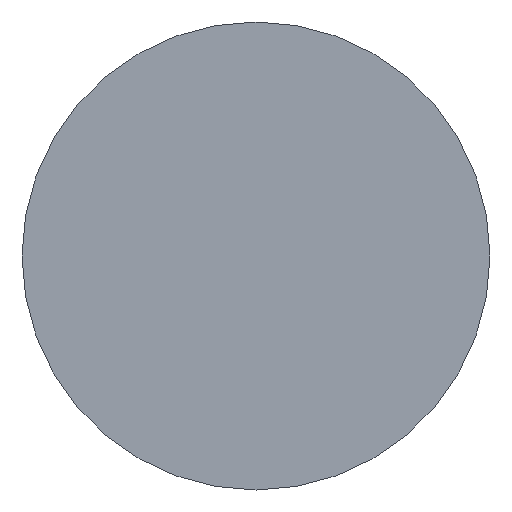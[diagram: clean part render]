
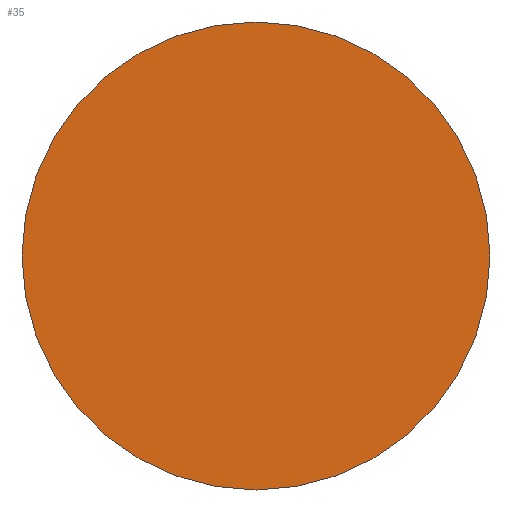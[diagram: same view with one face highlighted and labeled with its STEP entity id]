
A CAD part, front view. The second image highlights one B-rep face of the part: STEP entity #35.
In plain terms, the highlighted planar face has unit normal (0, -1, 0).
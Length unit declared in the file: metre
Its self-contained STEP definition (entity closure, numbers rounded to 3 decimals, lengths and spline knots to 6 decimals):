
#12=PLANE('',#60);
#16=ORIENTED_EDGE('',*,*,#18,.F.);
#18=EDGE_CURVE('',#20,#20,#22,.T.);
#20=VERTEX_POINT('',#77);
#22=CIRCLE('',#58,0.000709);
#26=EDGE_LOOP('',(#16));
#30=FACE_BOUND('',#26,.T.);
#35=ADVANCED_FACE('',(#30),#12,.F.);
#58=AXIS2_PLACEMENT_3D('',#76,#66,#67);
#60=AXIS2_PLACEMENT_3D('',#80,#70,#71);
#66=DIRECTION('',(0.,1.,0.));
#67=DIRECTION('',(1.,0.,0.));
#70=DIRECTION('',(0.,1.,0.));
#71=DIRECTION('',(1.,0.,0.));
#76=CARTESIAN_POINT('',(-0.092677,-0.083001,-0.025701));
#77=CARTESIAN_POINT('',(-0.091968,-0.083001,-0.025701));
#80=CARTESIAN_POINT('',(-0.092677,-0.083001,-0.025701));
